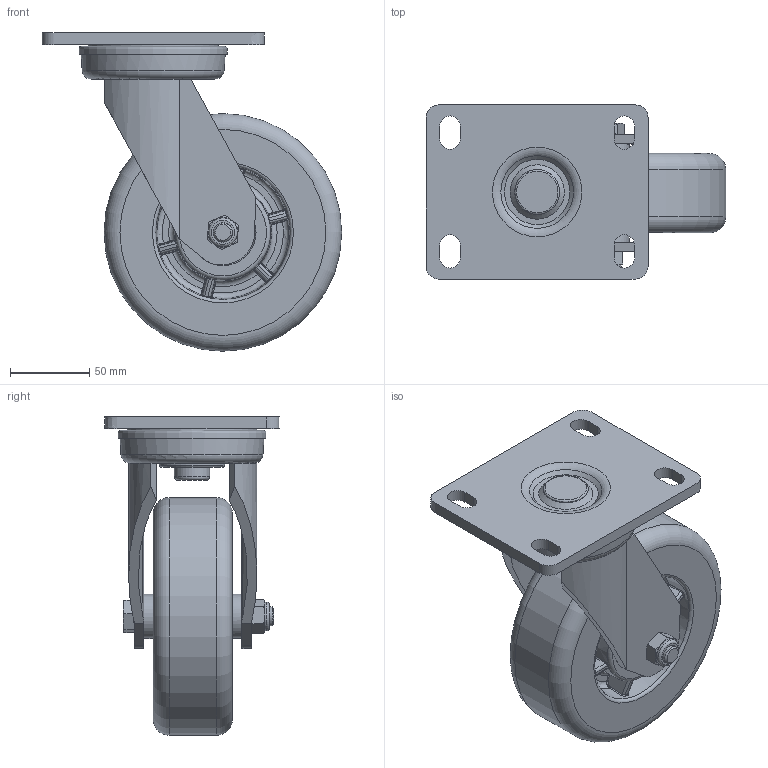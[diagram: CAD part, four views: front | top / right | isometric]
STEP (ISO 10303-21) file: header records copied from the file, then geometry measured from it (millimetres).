
FILE_DESCRIPTION(/* description */ (''),/* implementation_level */ '2;1');
FILE_NAME(/* name */ '36A07_6_F.stp',/* time_stamp */ '2022-08-29T08:57:56+08:00',/* author */ (''),/* organization */ (''),/* preprocessor_version */ 'ST-DEVELOPER v14',/* originating_system */ 'SIEMENS PLM Software NX 8.0',/* authorisation */ '');
FILE_SCHEMA (('AUTOMOTIVE_DESIGN { 1 0 10303 214 3 1 1 1 }'));
Products named in the file (1): 36A07_6_F
Bounding box: 189 x 110 x 201 mm (x, y, z)
Volume: 1046744.3 mm3; surface area: 196575.2 mm2
Topology: 1 solids, 4 shells, 925 faces, 2353 edges, 1452 vertices
Faces by surface type: plane 404, cylinder 210, bspline 193, cone 62, torus 48, revolution 6, extrusion 2
Full cylindrical faces by diameter (mm): 12 x2, 12.3 x2, 16.2 x1, 17 x2, 18 x1, 20 x1, 20.5 x2, 22.276 x1, 24.188 x4, 25 x1, 25.625 x1, 28 x2, 28.256 x1, 28.5 x1, 32.812 x2, 39.85 x2, 40 x3, 40.5 x1, 41.5 x1, 55 x1, 57 x1, 78 x2, 91.384 x1, 150 x1
Entity records: 43892 total; most frequent: CARTESIAN_POINT 23563, ORIENTED_EDGE 4416, DIRECTION 3955, EDGE_CURVE 2208, AXIS2_PLACEMENT_3D 1706, VERTEX_POINT 1407, EDGE_LOOP 1099, CIRCLE 963
